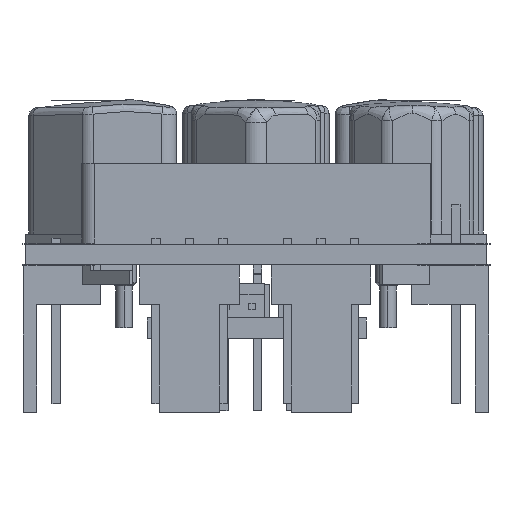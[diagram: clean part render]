
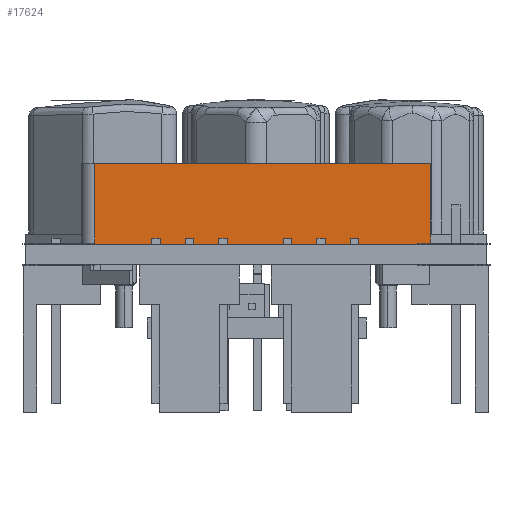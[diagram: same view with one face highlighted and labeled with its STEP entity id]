
A CAD part, left-side view. The second image highlights one B-rep face of the part: STEP entity #17624.
In plain terms, the highlighted planar face has unit normal (-1, 0, 0).
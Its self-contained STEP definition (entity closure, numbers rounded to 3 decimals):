
#16774=DIRECTION('',(0.,1.,0.));
#16775=VECTOR('',#16774,25.5);
#16776=CARTESIAN_POINT('',(-68.7,0.,0.));
#16777=LINE('',#16776,#16775);
#16868=DIRECTION('',(0.,0.,1.));
#16869=VECTOR('',#16868,6.13);
#16870=CARTESIAN_POINT('',(-68.7,25.5,-6.13));
#16871=LINE('',#16870,#16869);
#16886=DIRECTION('',(0.,0.,-1.));
#16887=VECTOR('',#16886,6.13);
#16888=CARTESIAN_POINT('',(-68.7,0.,0.));
#16889=LINE('',#16888,#16887);
#16912=DIRECTION('',(0.,1.,0.));
#16913=VECTOR('',#16912,25.5);
#16914=CARTESIAN_POINT('',(-68.7,0.,-6.13));
#16915=LINE('',#16914,#16913);
#17236=CARTESIAN_POINT('',(-68.7,0.,0.));
#17237=CARTESIAN_POINT('',(-68.7,0.,-6.13));
#17238=VERTEX_POINT('',#17236);
#17239=VERTEX_POINT('',#17237);
#17280=CARTESIAN_POINT('',(-68.7,25.5,-6.13));
#17281=CARTESIAN_POINT('',(-68.7,25.5,0.));
#17282=VERTEX_POINT('',#17280);
#17283=VERTEX_POINT('',#17281);
#17611=CARTESIAN_POINT('',(-68.7,0.,0.));
#17612=DIRECTION('',(-1.,0.,0.));
#17613=DIRECTION('',(0.,1.,0.));
#17614=AXIS2_PLACEMENT_3D('',#17611,#17612,#17613);
#17615=PLANE('',#17614);
#17616=ORIENTED_EDGE('',*,*,#17602,.T.);
#17617=ORIENTED_EDGE('',*,*,#17413,.F.);
#17619=ORIENTED_EDGE('',*,*,#17618,.T.);
#17621=ORIENTED_EDGE('',*,*,#17620,.T.);
#17622=EDGE_LOOP('',(#17616,#17617,#17619,#17621));
#17623=FACE_OUTER_BOUND('',#17622,.F.);
#17624=ADVANCED_FACE('',(#17623),#17615,.T.);
#17413=EDGE_CURVE('',#17238,#17283,#16777,.T.);
#17602=EDGE_CURVE('',#17282,#17283,#16871,.T.);
#17618=EDGE_CURVE('',#17238,#17239,#16889,.T.);
#17620=EDGE_CURVE('',#17239,#17282,#16915,.T.);
